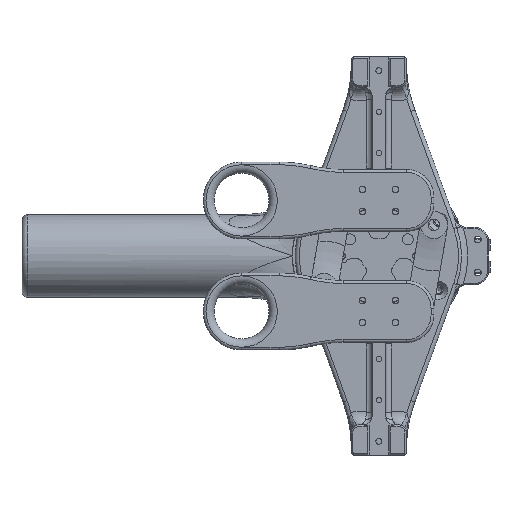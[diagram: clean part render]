
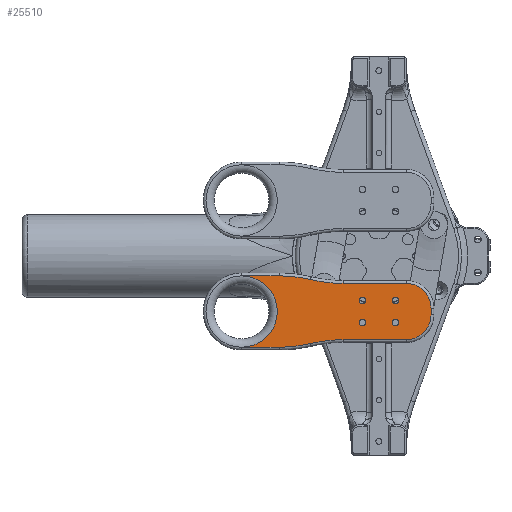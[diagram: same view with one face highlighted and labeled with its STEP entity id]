
A CAD part, front view. The second image highlights one B-rep face of the part: STEP entity #25510.
In plain terms, the highlighted planar face has unit normal (0, -1, 0) as drawn and (0, 0, -1) by its records, which use the part's own axes.
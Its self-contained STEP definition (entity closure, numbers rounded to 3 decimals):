
#381 = AXIS2_PLACEMENT_3D ( 'NONE', #24811, #39443, #42763 ) ;
#397 = CARTESIAN_POINT ( 'NONE',  ( 14.05, 6., 63. ) ) ;
#590 = CIRCLE ( 'NONE', #11908, 1.2 ) ;
#1119 = LINE ( 'NONE', #22424, #6910 ) ;
#1661 = VERTEX_POINT ( 'NONE', #43966 ) ;
#1896 = AXIS2_PLACEMENT_3D ( 'NONE', #11299, #32782, #11528 ) ;
#1929 = EDGE_CURVE ( 'NONE', #33670, #42262, #1119, .T. ) ;
#2002 = AXIS2_PLACEMENT_3D ( 'NONE', #28450, #32703, #43580 ) ;
#2319 = VERTEX_POINT ( 'NONE', #39728 ) ;
#2366 = EDGE_CURVE ( 'NONE', #16869, #33670, #7683, .T. ) ;
#2547 = EDGE_LOOP ( 'NONE', ( #38448 ) ) ;
#2790 = CIRCLE ( 'NONE', #25419, 49. ) ;
#3488 = CARTESIAN_POINT ( 'NONE',  ( 72.5, -13.063, 63. ) ) ;
#3630 = VECTOR ( 'NONE', #31719, 1000. ) ;
#3854 = DIRECTION ( 'NONE',  ( 0., -1., 0. ) ) ;
#4043 = PLANE ( 'NONE',  #20306 ) ;
#4409 = CIRCLE ( 'NONE', #5185, 49. ) ;
#5185 = AXIS2_PLACEMENT_3D ( 'NONE', #28405, #23952, #6930 ) ;
#5257 = ORIENTED_EDGE ( 'NONE', *, *, #6452, .T. ) ;
#5341 = EDGE_CURVE ( 'NONE', #14401, #14401, #22076, .T. ) ;
#6195 = EDGE_CURVE ( 'NONE', #1661, #27999, #15255, .T. ) ;
#6311 = VERTEX_POINT ( 'NONE', #19629 ) ;
#6438 = CARTESIAN_POINT ( 'NONE',  ( -1.75, -36.354, 63. ) ) ;
#6452 = EDGE_CURVE ( 'NONE', #22418, #18287, #14277, .T. ) ;
#6566 = CARTESIAN_POINT ( 'NONE',  ( 1., -13.063, 63. ) ) ;
#6631 = DIRECTION ( 'NONE',  ( -1., 0., 0. ) ) ;
#6910 = VECTOR ( 'NONE', #29947, 1000. ) ;
#6930 = DIRECTION ( 'NONE',  ( -1., 0., 0. ) ) ;
#7085 = DIRECTION ( 'NONE',  ( 0., 0., -1. ) ) ;
#7683 = CIRCLE ( 'NONE', #12186, 9. ) ;
#7832 = ORIENTED_EDGE ( 'NONE', *, *, #31088, .T. ) ;
#8157 = CARTESIAN_POINT ( 'NONE',  ( -1.75, 0., 63. ) ) ;
#8289 = FACE_BOUND ( 'NONE', #2547, .T. ) ;
#8373 = CARTESIAN_POINT ( 'NONE',  ( 11.25, -50., 63. ) ) ;
#9910 = CARTESIAN_POINT ( 'NONE',  ( 6.05, -6., 63. ) ) ;
#10110 = ORIENTED_EDGE ( 'NONE', *, *, #12876, .T. ) ;
#10114 = DIRECTION ( 'NONE',  ( -1., 0., 0. ) ) ;
#10868 = DIRECTION ( 'NONE',  ( 0., 0., 1. ) ) ;
#10932 = EDGE_LOOP ( 'NONE', ( #25109 ) ) ;
#11299 = CARTESIAN_POINT ( 'NONE',  ( 12.5, 10., 63. ) ) ;
#11349 = CARTESIAN_POINT ( 'NONE',  ( 21.5, -13.063, 63. ) ) ;
#11528 = DIRECTION ( 'NONE',  ( -1., 0., 0. ) ) ;
#11908 = AXIS2_PLACEMENT_3D ( 'NONE', #25353, #17510, #46100 ) ;
#12073 = CARTESIAN_POINT ( 'NONE',  ( 0., 0., 63. ) ) ;
#12186 = AXIS2_PLACEMENT_3D ( 'NONE', #21798, #14930, #35489 ) ;
#12252 = AXIS2_PLACEMENT_3D ( 'NONE', #18819, #41220, #29882 ) ;
#12876 = EDGE_CURVE ( 'NONE', #2319, #13613, #37615, .T. ) ;
#13464 = ORIENTED_EDGE ( 'NONE', *, *, #6195, .T. ) ;
#13550 = CARTESIAN_POINT ( 'NONE',  ( 1., 10., 63. ) ) ;
#13613 = VERTEX_POINT ( 'NONE', #32708 ) ;
#13904 = EDGE_CURVE ( 'NONE', #29605, #16869, #38341, .T. ) ;
#14277 = LINE ( 'NONE', #36216, #29648 ) ;
#14401 = VERTEX_POINT ( 'NONE', #397 ) ;
#14857 = ORIENTED_EDGE ( 'NONE', *, *, #17617, .F. ) ;
#14902 = DIRECTION ( 'NONE',  ( -1., 0., 0. ) ) ;
#14930 = DIRECTION ( 'NONE',  ( 0., 0., -1. ) ) ;
#15255 = LINE ( 'NONE', #8157, #45480 ) ;
#15615 = FACE_BOUND ( 'NONE', #32455, .T. ) ;
#16869 = VERTEX_POINT ( 'NONE', #32095 ) ;
#17348 = ORIENTED_EDGE ( 'NONE', *, *, #45465, .T. ) ;
#17510 = DIRECTION ( 'NONE',  ( 0., 0., -1. ) ) ;
#17617 = EDGE_CURVE ( 'NONE', #41980, #41980, #38889, .T. ) ;
#18287 = VERTEX_POINT ( 'NONE', #23381 ) ;
#18344 = ORIENTED_EDGE ( 'NONE', *, *, #36328, .F. ) ;
#18819 = CARTESIAN_POINT ( 'NONE',  ( 15.25, 6., 63. ) ) ;
#19629 = CARTESIAN_POINT ( 'NONE',  ( 6.05, 6., 63. ) ) ;
#20164 = ORIENTED_EDGE ( 'NONE', *, *, #40582, .T. ) ;
#20306 = AXIS2_PLACEMENT_3D ( 'NONE', #12073, #40878, #22934 ) ;
#21324 = EDGE_CURVE ( 'NONE', #6311, #6311, #590, .T. ) ;
#21387 = CIRCLE ( 'NONE', #25137, 13. ) ;
#21415 = CARTESIAN_POINT ( 'NONE',  ( 10., 19., 63. ) ) ;
#21595 = ORIENTED_EDGE ( 'NONE', *, *, #2366, .T. ) ;
#21798 = CARTESIAN_POINT ( 'NONE',  ( 10., 10., 63. ) ) ;
#22076 = CIRCLE ( 'NONE', #12252, 1.2 ) ;
#22418 = VERTEX_POINT ( 'NONE', #33260 ) ;
#22424 = CARTESIAN_POINT ( 'NONE',  ( 12.5, 19., 63. ) ) ;
#22471 = AXIS2_PLACEMENT_3D ( 'NONE', #32372, #10868, #6631 ) ;
#22934 = DIRECTION ( 'NONE',  ( -1., 0., 0. ) ) ;
#23381 = CARTESIAN_POINT ( 'NONE',  ( 24.25, -50., 63. ) ) ;
#23483 = DIRECTION ( 'NONE',  ( 0., 0., 1. ) ) ;
#23952 = DIRECTION ( 'NONE',  ( 0., 0., -1. ) ) ;
#24765 = CARTESIAN_POINT ( 'NONE',  ( 21.5, 10., 63. ) ) ;
#24811 = CARTESIAN_POINT ( 'NONE',  ( 15.25, -6., 63. ) ) ;
#25109 = ORIENTED_EDGE ( 'NONE', *, *, #5341, .F. ) ;
#25137 = AXIS2_PLACEMENT_3D ( 'NONE', #8373, #23483, #33867 ) ;
#25353 = CARTESIAN_POINT ( 'NONE',  ( 7.25, 6., 63. ) ) ;
#25419 = AXIS2_PLACEMENT_3D ( 'NONE', #35695, #7085, #14902 ) ;
#25510 = ADVANCED_FACE ( 'NONE', ( #26461, #33544, #15615, #30005, #8289 ), #4043, .T. ) ;
#25545 = AXIS2_PLACEMENT_3D ( 'NONE', #3488, #35384, #10114 ) ;
#25745 = DIRECTION ( 'NONE',  ( 0., -1., 0. ) ) ;
#26095 = EDGE_LOOP ( 'NONE', ( #7832, #13464, #27319, #46099, #32913, #21595, #45904, #41307, #20164, #10110, #17348, #5257 ) ) ;
#26158 = CIRCLE ( 'NONE', #2002, 1.2 ) ;
#26461 = FACE_OUTER_BOUND ( 'NONE', #26095, .T. ) ;
#27319 = ORIENTED_EDGE ( 'NONE', *, *, #32695, .T. ) ;
#27999 = VERTEX_POINT ( 'NONE', #6438 ) ;
#28405 = CARTESIAN_POINT ( 'NONE',  ( 47.25, -36.354, 63. ) ) ;
#28450 = CARTESIAN_POINT ( 'NONE',  ( 7.25, -6., 63. ) ) ;
#28721 = CARTESIAN_POINT ( 'NONE',  ( -0.403, -24.941, 63. ) ) ;
#29529 = LINE ( 'NONE', #11349, #33150 ) ;
#29594 = VERTEX_POINT ( 'NONE', #24765 ) ;
#29605 = VERTEX_POINT ( 'NONE', #6566 ) ;
#29648 = VECTOR ( 'NONE', #3854, 1000. ) ;
#29882 = DIRECTION ( 'NONE',  ( -1., 0., 0. ) ) ;
#29947 = DIRECTION ( 'NONE',  ( 1., 0., 0. ) ) ;
#30005 = FACE_BOUND ( 'NONE', #45943, .T. ) ;
#30634 = CARTESIAN_POINT ( 'NONE',  ( 14.05, -6., 63. ) ) ;
#31088 = EDGE_CURVE ( 'NONE', #18287, #1661, #21387, .T. ) ;
#31719 = DIRECTION ( 'NONE',  ( 0., 1., 0. ) ) ;
#32095 = CARTESIAN_POINT ( 'NONE',  ( 1., 10., 63. ) ) ;
#32372 = CARTESIAN_POINT ( 'NONE',  ( -50., -13.063, 63. ) ) ;
#32455 = EDGE_LOOP ( 'NONE', ( #18344 ) ) ;
#32695 = EDGE_CURVE ( 'NONE', #27999, #34380, #4409, .T. ) ;
#32703 = DIRECTION ( 'NONE',  ( 0., 0., -1. ) ) ;
#32708 = CARTESIAN_POINT ( 'NONE',  ( 22.902, -24.941, 63. ) ) ;
#32782 = DIRECTION ( 'NONE',  ( 0., 0., -1. ) ) ;
#32913 = ORIENTED_EDGE ( 'NONE', *, *, #13904, .T. ) ;
#33150 = VECTOR ( 'NONE', #25745, 1000. ) ;
#33260 = CARTESIAN_POINT ( 'NONE',  ( 24.25, -36.354, 63. ) ) ;
#33544 = FACE_BOUND ( 'NONE', #10932, .T. ) ;
#33670 = VERTEX_POINT ( 'NONE', #21415 ) ;
#33867 = DIRECTION ( 'NONE',  ( -1., 0., 0. ) ) ;
#34380 = VERTEX_POINT ( 'NONE', #28721 ) ;
#35384 = DIRECTION ( 'NONE',  ( 0., 0., 1. ) ) ;
#35489 = DIRECTION ( 'NONE',  ( -1., 0., 0. ) ) ;
#35695 = CARTESIAN_POINT ( 'NONE',  ( -24.75, -36.354, 63. ) ) ;
#36216 = CARTESIAN_POINT ( 'NONE',  ( 24.25, 0., 63. ) ) ;
#36328 = EDGE_CURVE ( 'NONE', #42288, #42288, #26158, .T. ) ;
#37615 = CIRCLE ( 'NONE', #25545, 51. ) ;
#37895 = EDGE_CURVE ( 'NONE', #34380, #29605, #42841, .T. ) ;
#38341 = LINE ( 'NONE', #13550, #3630 ) ;
#38448 = ORIENTED_EDGE ( 'NONE', *, *, #21324, .F. ) ;
#38889 = CIRCLE ( 'NONE', #381, 1.2 ) ;
#39443 = DIRECTION ( 'NONE',  ( 0., 0., -1. ) ) ;
#39728 = CARTESIAN_POINT ( 'NONE',  ( 21.5, -13.063, 63. ) ) ;
#40014 = CARTESIAN_POINT ( 'NONE',  ( 12.5, 19., 63. ) ) ;
#40284 = DIRECTION ( 'NONE',  ( 0., 1., 0. ) ) ;
#40582 = EDGE_CURVE ( 'NONE', #29594, #2319, #29529, .T. ) ;
#40861 = EDGE_CURVE ( 'NONE', #42262, #29594, #44186, .T. ) ;
#40878 = DIRECTION ( 'NONE',  ( 0., 0., -1. ) ) ;
#41220 = DIRECTION ( 'NONE',  ( 0., 0., -1. ) ) ;
#41307 = ORIENTED_EDGE ( 'NONE', *, *, #40861, .T. ) ;
#41980 = VERTEX_POINT ( 'NONE', #30634 ) ;
#42262 = VERTEX_POINT ( 'NONE', #40014 ) ;
#42288 = VERTEX_POINT ( 'NONE', #9910 ) ;
#42763 = DIRECTION ( 'NONE',  ( -1., 0., 0. ) ) ;
#42841 = CIRCLE ( 'NONE', #22471, 51. ) ;
#43580 = DIRECTION ( 'NONE',  ( -1., 0., 0. ) ) ;
#43966 = CARTESIAN_POINT ( 'NONE',  ( -1.75, -50., 63. ) ) ;
#44186 = CIRCLE ( 'NONE', #1896, 9. ) ;
#45465 = EDGE_CURVE ( 'NONE', #13613, #22418, #2790, .T. ) ;
#45480 = VECTOR ( 'NONE', #40284, 1000. ) ;
#45904 = ORIENTED_EDGE ( 'NONE', *, *, #1929, .T. ) ;
#45943 = EDGE_LOOP ( 'NONE', ( #14857 ) ) ;
#46099 = ORIENTED_EDGE ( 'NONE', *, *, #37895, .T. ) ;
#46100 = DIRECTION ( 'NONE',  ( -1., 0., 0. ) ) ;
